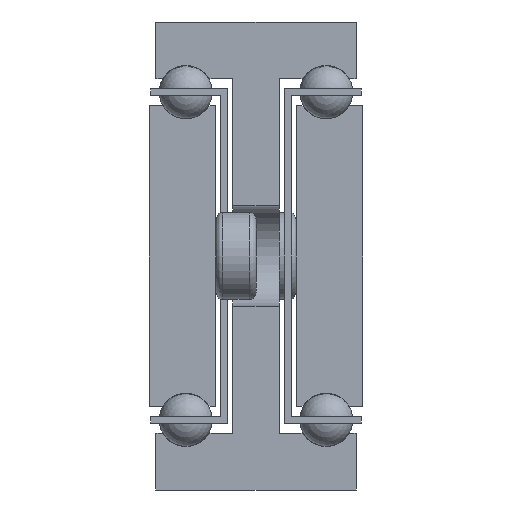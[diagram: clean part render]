
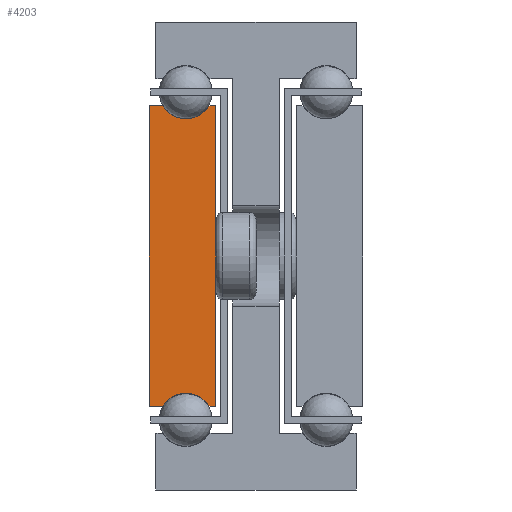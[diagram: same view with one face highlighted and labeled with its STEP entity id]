
A CAD part, front view. The second image highlights one B-rep face of the part: STEP entity #4203.
In plain terms, the highlighted planar face has unit normal (0, -1, 0).
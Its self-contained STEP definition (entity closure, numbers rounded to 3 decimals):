
#573=CIRCLE('',#4491,4.);
#575=CIRCLE('',#4497,4.);
#849=FACE_OUTER_BOUND('',#1117,.T.);
#1117=EDGE_LOOP('',(#3302,#3303,#3304,#3305,#3306,#3307,#3308,#3309));
#1492=LINE('',#66038,#1704);
#1495=LINE('',#66044,#1707);
#1499=LINE('',#66056,#1711);
#1502=LINE('',#66062,#1714);
#1505=LINE('',#66068,#1717);
#1509=LINE('',#66078,#1721);
#1704=VECTOR('',#4994,1.);
#1707=VECTOR('',#4999,1.);
#1711=VECTOR('',#5011,1.);
#1714=VECTOR('',#5016,1.);
#1717=VECTOR('',#5021,1.);
#1721=VECTOR('',#5033,1.);
#1972=VERTEX_POINT('',#66035);
#1973=VERTEX_POINT('',#66037);
#1975=VERTEX_POINT('',#66043);
#1977=VERTEX_POINT('',#66049);
#1979=VERTEX_POINT('',#66055);
#1981=VERTEX_POINT('',#66061);
#1983=VERTEX_POINT('',#66067);
#1985=VERTEX_POINT('',#66073);
#2490=EDGE_CURVE('',#1973,#1972,#1492,.T.);
#2493=EDGE_CURVE('',#1975,#1973,#1495,.T.);
#2496=EDGE_CURVE('',#1977,#1975,#573,.T.);
#2499=EDGE_CURVE('',#1979,#1977,#1499,.T.);
#2502=EDGE_CURVE('',#1981,#1979,#1502,.T.);
#2505=EDGE_CURVE('',#1983,#1981,#1505,.T.);
#2508=EDGE_CURVE('',#1985,#1983,#575,.T.);
#2511=EDGE_CURVE('',#1972,#1985,#1509,.T.);
#3302=ORIENTED_EDGE('',*,*,#2511,.T.);
#3303=ORIENTED_EDGE('',*,*,#2508,.T.);
#3304=ORIENTED_EDGE('',*,*,#2505,.T.);
#3305=ORIENTED_EDGE('',*,*,#2502,.T.);
#3306=ORIENTED_EDGE('',*,*,#2499,.T.);
#3307=ORIENTED_EDGE('',*,*,#2496,.T.);
#3308=ORIENTED_EDGE('',*,*,#2493,.T.);
#3309=ORIENTED_EDGE('',*,*,#2490,.T.);
#4073=PLANE('',#4500);
#4203=ADVANCED_FACE('',(#849),#4073,.T.);
#4491=AXIS2_PLACEMENT_3D('',#66050,#5005,#5006);
#4497=AXIS2_PLACEMENT_3D('',#66074,#5027,#5028);
#4500=AXIS2_PLACEMENT_3D('',#66080,#5036,#5037);
#4994=DIRECTION('',(0.,0.,-1.));
#4999=DIRECTION('',(-1.,0.,0.));
#5005=DIRECTION('center_axis',(0.,1.,0.));
#5006=DIRECTION('ref_axis',(-0.866,0.,-0.5));
#5011=DIRECTION('',(-1.,0.,0.));
#5016=DIRECTION('',(0.,0.,1.));
#5021=DIRECTION('',(1.,0.,0.));
#5027=DIRECTION('center_axis',(0.,1.,0.));
#5028=DIRECTION('ref_axis',(0.866,0.,0.5));
#5033=DIRECTION('',(1.,0.,0.));
#5036=DIRECTION('center_axis',(0.,-1.,0.));
#5037=DIRECTION('ref_axis',(1.,0.,0.));
#66035=CARTESIAN_POINT('',(-1411.423,-224.311,-57.5));
#66037=CARTESIAN_POINT('',(-1411.423,-224.311,-12.5));
#66038=CARTESIAN_POINT('',(-1411.423,-224.311,-57.5));
#66043=CARTESIAN_POINT('',(-1409.387,-224.311,-12.5));
#66044=CARTESIAN_POINT('',(-1411.423,-224.311,-12.5));
#66049=CARTESIAN_POINT('',(-1402.459,-224.311,-12.5));
#66050=CARTESIAN_POINT('Origin',(-1405.923,-224.311,-10.5));
#66055=CARTESIAN_POINT('',(-1401.423,-224.311,-12.5));
#66056=CARTESIAN_POINT('',(-1402.459,-224.311,-12.5));
#66061=CARTESIAN_POINT('',(-1401.423,-224.311,-57.5));
#66062=CARTESIAN_POINT('',(-1401.423,-224.311,-12.5));
#66067=CARTESIAN_POINT('',(-1402.459,-224.311,-57.5));
#66068=CARTESIAN_POINT('',(-1401.423,-224.311,-57.5));
#66073=CARTESIAN_POINT('',(-1409.387,-224.311,-57.5));
#66074=CARTESIAN_POINT('Origin',(-1405.923,-224.311,-59.5));
#66078=CARTESIAN_POINT('',(-1409.387,-224.311,-57.5));
#66080=CARTESIAN_POINT('Origin',(-1406.429,-224.311,-35.));
